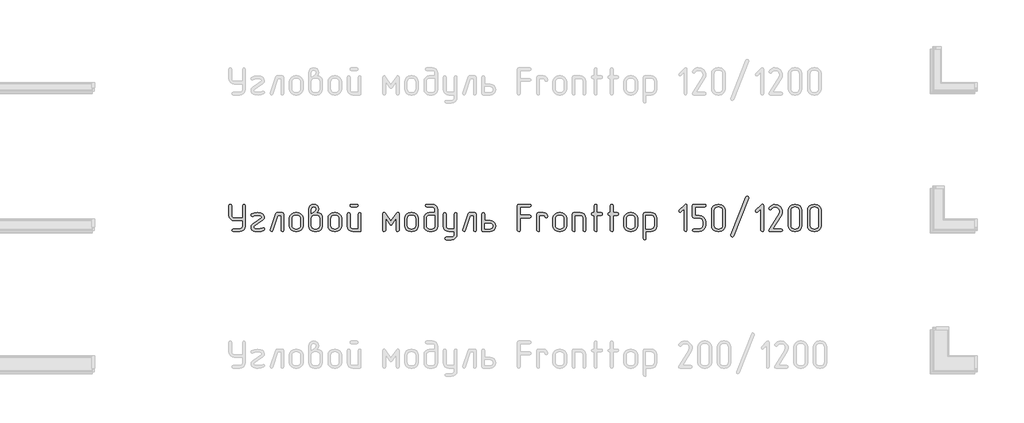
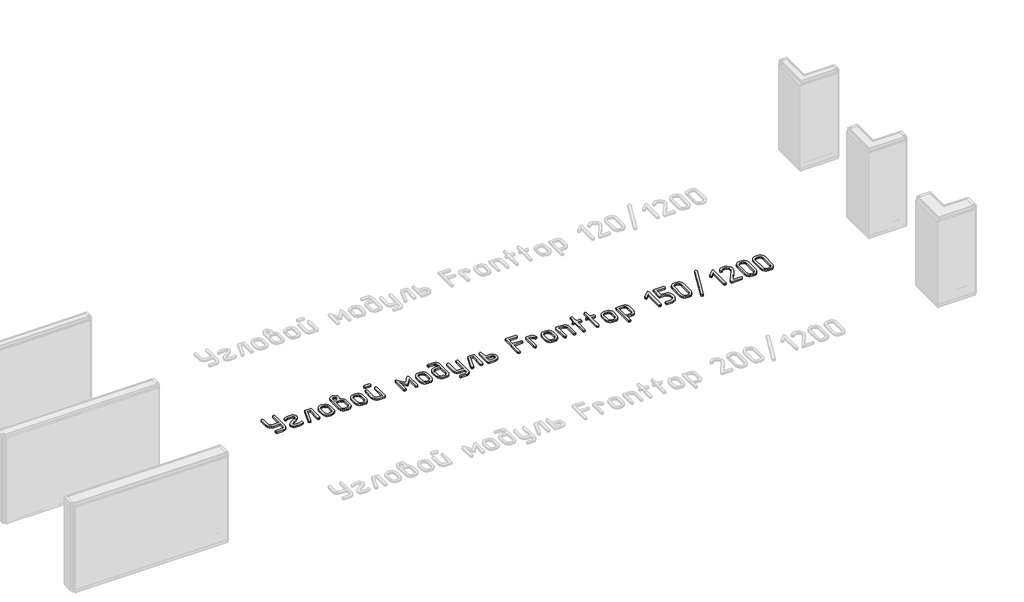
# One storey, part 24 of 37: 1 proxy.
"""IFC4 building model written with IfcOpenShell, lengths in millimetres."""

from ifc_helpers import new_model, si_unit, origin, origin_with_axes, place, context, project, spatial, polyline, outline, extrude, element, save

model = new_model("IFC4")

# Units and contexts
model_context = context("Model", 3, world=origin())
ifc_project = project(units=[si_unit("LENGTHUNIT", "METRE", prefix="MILLI")], contexts=[model_context])

# Site, building, storey
site = spatial("IfcSite", under=ifc_project)
building = spatial("IfcBuilding", under=site)
storey = spatial("IfcBuildingStorey", under=building, Name="Этаж 01", Elevation=0.0)

# Proxy
placement = place(None, origin())
element("IfcBuildingElementProxy", 1, Name="300 мм ГОСТ 2.304", ObjectType="300 мм ГОСТ 2.304", at=placement, inside=storey, context=model_context, shape_type="SweptSolid", body=[
    extrude(outline(polyline([(64282.5947081, -34108.7261154), (64192.9398643, -34108.7261154), (64169.869135, -34104.3522505), (64150.5152523, -34091.2306559), (64137.3936577, -34071.8767732), (64133.0197928, -34048.8060439), (64133.0197928, -33944.2838139), (64137.4124296, -33933.1332743), (64148.3377058, -33928.9659009), (64158.6247356, -33932.9080109), (64163.205092, -33944.2838139), (64163.205092, -34048.8060439), (64165.3357086, -34060.4540402), (64171.7275583, -34070.0183499), (64181.2918679, -34076.4101996), (64192.9398643, -34078.5408162), (64282.5947081, -34078.5408162), (64282.5947081, -33944.2838139), (64286.949801, -33933.1332743), (64297.4620942, -33928.9659009), (64307.9368436, -33932.9080109), (64312.3294804, -33944.2838139), (64312.3294804, -34168.19566), (64307.9556155, -34191.6042844), (64294.8340209, -34211.0707988), (64275.8180333, -34223.8544983), (64252.8599358, -34228.1157314), (64178.0724781, -34228.1157314), (64167.147202, -34223.7606385), (64163.205092, -34213.2483453), (64166.9219385, -34202.736052), (64178.0724781, -34198.3809591), (64252.8599358, -34198.3809591), (64264.2263528, -34196.1940267), (64273.8469783, -34189.6332294), (64280.4077756, -34179.8999722), (64282.5947081, -34168.19566), (64282.5947081, -34108.7261154)])), origin_with_axes(), (0.0, 0.0, 1.0), 20.0),
    extrude(outline(polyline([(64514.9914765, -34214.524838), (64485.4444237, -34225.0746752), (64451.6173658, -34228.5662583), (64430.8180428, -34227.4774851), (64413.0973199, -34224.5866044), (64396.8408093, -34219.4524755), (64384.8643037, -34209.3062353), (64377.4869265, -34195.6496401), (64375.0278008, -34179.984446), (64378.9699108, -34160.7619669), (64391.2467675, -34144.618088), (64486.5331969, -34078.991343), (64491.4139045, -34069.8306304), (64487.5844263, -34060.4071103), (64476.0959915, -34054.0621905), (64442.3815653, -34049.7070976), (64416.2510079, -34052.4290307), (64397.32888, -34060.5948299), (64388.1681673, -34064.1239569), (64377.693418, -34059.5436005), (64373.3007812, -34048.355517), (64379.4579815, -34037.0172579), (64408.0664367, -34024.777945), (64445.0096386, -34020.4228521), (64450.2657853, -34020.4228521), (64479.1370478, -34023.9144352), (64501.85111, -34033.7509382), (64516.7184961, -34049.0313073), (64521.9746427, -34068.9295767), (64517.7134096, -34086.6315276), (64504.9297101, -34102.193476), (64409.5681929, -34168.19566), (64404.3871341, -34179.6090069), (64408.1039806, -34189.8584928), (64417.9029396, -34195.7528858), (64434.3096259, -34197.5174493), (64451.9928049, -34198.3809591), (64478.4612575, -34196.2034127), (64501.0251441, -34187.8686659), (64508.4588371, -34186.1416463), (64519.1588499, -34190.7220026), (64523.3262233, -34201.9100861), (64521.2425366, -34209.1936036), (64514.9914765, -34214.524838)])), origin_with_axes(), (0.0, 0.0, 1.0), 20.0),
    extrude(outline(polyline([(64734.3229662, -34213.2483453), (64730.1555928, -34224.3988849), (64719.45558, -34228.1157314), (64708.9432868, -34224.1736215), (64704.5881939, -34213.2483453), (64704.5881939, -34048.8060439), (64670.0478018, -34048.8060439), (64614.0322964, -34218.0539651), (64608.5884303, -34225.4876581), (64600.5164908, -34228.1157314), (64589.7789341, -34224.1736215), (64585.1985778, -34213.6988721), (64586.0996315, -34208.4427255), (64645.1186493, -34029.133038), (64650.4498837, -34021.5867132), (64659.5355086, -34019.0712716), (64719.45558, -34019.0712716), (64730.6061197, -34022.7881181), (64734.3229662, -34033.9386577), (64734.3229662, -34213.2483453)])), origin_with_axes(), (0.0, 0.0, 1.0), 20.0),
    extrude(outline(polyline([(64945.7702359, -34162.4889865), (64940.9646162, -34187.9812976), (64926.5477569, -34209.3437792), (64905.5231704, -34223.4227434), (64880.143491, -34228.1157314), (64862.1975047, -34228.1157314), (64836.7615094, -34223.4227434), (64815.4177998, -34209.3437792), (64801.0009405, -34187.9812976), (64796.1953207, -34162.4889865), (64796.1953207, -34084.6980165), (64801.0009405, -34059.5436005), (64815.4177998, -34038.2937506), (64837.1744924, -34023.8768913), (64862.1975047, -34019.0712716), (64880.143491, -34019.0712716), (64905.288521, -34023.8862773), (64926.510213, -34038.3312945), (64940.9552302, -34059.5529865), (64945.7702359, -34084.6980165), (64945.7702359, -34162.4889865)]), holes=[polyline([(64916.0354636, -34162.4889865), (64916.0354636, -34084.6980165), (64913.4073903, -34070.9194036), (64905.5231704, -34059.3183371), (64893.9221039, -34051.4341172), (64880.143491, -34048.8060439), (64862.1975047, -34048.8060439), (64848.4282777, -34051.4341172), (64836.8553692, -34059.3183371), (64828.9993072, -34070.9194036), (64826.3806199, -34084.6980165), (64826.3806199, -34162.4889865), (64828.9993072, -34176.2675994), (64836.8553692, -34187.8686659), (64848.4282777, -34195.7528858), (64862.1975047, -34198.3809591), (64880.143491, -34198.3809591), (64893.9221039, -34195.7528858), (64905.5231704, -34187.8686659), (64913.4073903, -34176.2675994), (64916.0354636, -34162.4889865)])]), origin_with_axes(), (0.0, 0.0, 1.0), 20.0),
    extrude(outline(polyline([(65097.2974342, -34019.9723253), (65122.7897453, -34024.2335584), (65142.3501195, -34037.0172579), (65153.5006592, -34055.057104), (65157.2175057, -34078.5408162), (65157.2175057, -34168.19566), (65152.8436408, -34191.6042844), (65139.7220462, -34211.0707988), (65120.5934269, -34223.8544983), (65097.2974342, -34228.1157314), (65067.5626619, -34228.1157314), (65044.4919326, -34223.8544983), (65025.1380499, -34211.0707988), (65012.0164553, -34191.6042844), (65007.6425905, -34168.19566), (65007.6425905, -33983.2543867), (65011.9038236, -33960.3901489), (65024.6875231, -33942.5567943), (65041.4133325, -33932.3636243), (65061.8559884, -33928.9659009), (65081.9607493, -33932.3636243), (65098.573927, -33942.5567943), (65111.0760472, -33960.2775172), (65115.2434206, -33982.8038599), (65111.0760472, -34004.8421318), (65097.2974342, -34019.9723253)]), holes=[polyline([(65127.4827334, -34168.19566), (65127.4827334, -34078.5408162), (65125.295801, -34067.1743991), (65118.7350037, -34057.5537736), (65109.0017464, -34050.9929763), (65097.2974342, -34048.8060439), (65067.5626619, -34048.8060439), (65055.9146656, -34050.9929763), (65046.3503559, -34057.5537736), (65039.9585062, -34067.1743991), (65037.8278896, -34078.5408162), (65037.8278896, -34168.19566), (65039.9585062, -34179.8999722), (65046.3503559, -34189.6332294), (65055.9146656, -34196.1940267), (65067.5626619, -34198.3809591), (65097.2974342, -34198.3809591), (65109.0017464, -34196.1940267), (65118.7350037, -34189.6332294), (65125.295801, -34179.8999722), (65127.4827334, -34168.19566)]), polyline([(65037.8278896, -34029.133038), (65044.8110558, -34025.0032085), (65050.0672025, -34021.248818), (65060.1289688, -34014.0403884), (65067.5626619, -34008.5589783), (65079.8019748, -33997.671246), (65085.5086482, -33983.2543867), (65083.7065408, -33973.1644624), (65078.3002186, -33965.7213834), (65070.4723145, -33961.1316411), (65061.4054616, -33959.601727), (65052.4512404, -33961.1316411), (65044.8110558, -33965.7213834), (65039.5736812, -33973.1644624), (65037.8278896, -33983.2543867), (65037.8278896, -34029.133038)])]), origin_with_axes(), (0.0, 0.0, 1.0), 20.0),
    extrude(outline(polyline([(65368.6647755, -34162.4889865), (65363.8591557, -34187.9812976), (65349.4422964, -34209.3437792), (65328.4177099, -34223.4227434), (65303.0380305, -34228.1157314), (65285.0920442, -34228.1157314), (65259.6560489, -34223.4227434), (65238.3123393, -34209.3437792), (65223.89548, -34187.9812976), (65219.0898602, -34162.4889865), (65219.0898602, -34084.6980165), (65223.89548, -34059.5436005), (65238.3123393, -34038.2937506), (65260.0690319, -34023.8768913), (65285.0920442, -34019.0712716), (65303.0380305, -34019.0712716), (65328.1830605, -34023.8862773), (65349.4047525, -34038.3312945), (65363.8497697, -34059.5529865), (65368.6647755, -34084.6980165), (65368.6647755, -34162.4889865)]), holes=[polyline([(65338.9300032, -34162.4889865), (65338.9300032, -34084.6980165), (65336.3019298, -34070.9194036), (65328.4177099, -34059.3183371), (65316.8166434, -34051.4341172), (65303.0380305, -34048.8060439), (65285.0920442, -34048.8060439), (65271.3228172, -34051.4341172), (65259.7499087, -34059.3183371), (65251.8938467, -34070.9194036), (65249.2751594, -34084.6980165), (65249.2751594, -34162.4889865), (65251.8938467, -34176.2675994), (65259.7499087, -34187.8686659), (65271.3228172, -34195.7528858), (65285.0920442, -34198.3809591), (65303.0380305, -34198.3809591), (65316.8166434, -34195.7528858), (65328.4177099, -34187.8686659), (65336.3019298, -34176.2675994), (65338.9300032, -34162.4889865)])]), origin_with_axes(), (0.0, 0.0, 1.0), 20.0),
    extrude(outline(polyline([(65535.5098868, -33959.1512001), (65475.5898153, -33959.1512001), (65464.6645391, -33954.7961072), (65460.7224291, -33944.2838139), (65464.4392757, -33933.5838012), (65475.5898153, -33928.9659009), (65535.5098868, -33928.9659009), (65546.6604264, -33933.3585378), (65550.3772729, -33944.2838139), (65546.4351629, -33954.5708438), (65535.5098868, -33959.1512001)])), origin_with_axes(), (0.0, 0.0, 1.0), 20.0),
    extrude(outline(polyline([(65580.1120452, -34213.2483453), (65576.3951987, -34224.3988849), (65565.2446591, -34228.1157314), (65490.4572014, -34228.1157314), (65467.3864722, -34223.8544983), (65448.0325894, -34211.0707988), (65434.9109948, -34191.6042844), (65430.53713, -34168.19566), (65430.53713, -34033.9386577), (65434.9297668, -34023.0133815), (65445.855043, -34019.0712716), (65456.1420728, -34022.7881181), (65460.7224291, -34033.9386577), (65460.7224291, -34168.19566), (65462.8530457, -34179.8999722), (65469.2448954, -34189.6332294), (65478.8092051, -34196.1940267), (65490.4572014, -34198.3809591), (65550.3772729, -34198.3809591), (65550.3772729, -34033.9386577), (65554.7323658, -34023.0133815), (65565.2446591, -34019.0712716), (65575.7194084, -34022.7881181), (65580.1120452, -34033.9386577), (65580.1120452, -34213.2483453)])), origin_with_axes(), (0.0, 0.0, 1.0), 20.0),
    extrude(outline(polyline([(65999.1020187, -34213.2483453), (65994.7093818, -34224.1736215), (65984.2346325, -34228.1157314), (65973.4970758, -34224.3988849), (65969.3672464, -34213.2483453), (65969.3672464, -34080.2678358), (65921.6864877, -34147.2461613), (65915.5480594, -34153.1030104), (65909.4471749, -34155.0552934), (65903.121027, -34153.1030104), (65897.207862, -34147.2461613), (65849.9776303, -34080.2678358), (65849.9776303, -34213.2483453), (65845.3972739, -34224.1736215), (65835.1102441, -34228.1157314), (65823.9597045, -34224.3988849), (65819.7923311, -34213.2483453), (65819.7923311, -34033.9386577), (65823.5091776, -34021.0235546), (65832.9326977, -34016.4431983), (65840.666742, -34018.6395167), (65847.349557, -34025.2284719), (65909.4471749, -34112.6306814), (65971.9953197, -34025.2284719), (65978.7532225, -34018.6395167), (65985.9616521, -34016.4431983), (65995.3851721, -34021.0235546), (65999.1020187, -34033.9386577), (65999.1020187, -34213.2483453)])), origin_with_axes(), (0.0, 0.0, 1.0), 20.0),
    extrude(outline(polyline([(66209.6482347, -34162.4889865), (66204.8426149, -34187.9812976), (66190.4257556, -34209.3437792), (66169.4011692, -34223.4227434), (66144.0214898, -34228.1157314), (66126.0755035, -34228.1157314), (66100.6395082, -34223.4227434), (66079.2957985, -34209.3437792), (66064.8789392, -34187.9812976), (66060.0733195, -34162.4889865), (66060.0733195, -34084.6980165), (66064.8789392, -34059.5436005), (66079.2957985, -34038.2937506), (66101.0524911, -34023.8768913), (66126.0755035, -34019.0712716), (66144.0214898, -34019.0712716), (66169.1665198, -34023.8862773), (66190.3882117, -34038.3312945), (66204.833229, -34059.5529865), (66209.6482347, -34084.6980165), (66209.6482347, -34162.4889865)]), holes=[polyline([(66179.9134624, -34162.4889865), (66179.9134624, -34084.6980165), (66177.2853891, -34070.9194036), (66169.4011692, -34059.3183371), (66157.8001027, -34051.4341172), (66144.0214898, -34048.8060439), (66126.0755035, -34048.8060439), (66112.3062765, -34051.4341172), (66100.733368, -34059.3183371), (66092.877306, -34070.9194036), (66090.2586186, -34084.6980165), (66090.2586186, -34162.4889865), (66092.877306, -34176.2675994), (66100.733368, -34187.8686659), (66112.3062765, -34195.7528858), (66126.0755035, -34198.3809591), (66144.0214898, -34198.3809591), (66157.8001027, -34195.7528858), (66169.4011692, -34187.8686659), (66177.2853891, -34176.2675994), (66179.9134624, -34162.4889865)])]), origin_with_axes(), (0.0, 0.0, 1.0), 20.0),
    extrude(outline(polyline([(66391.3607322, -34019.0712716), (66391.3607322, -33988.8859724), (66389.1737997, -33977.2379761), (66382.6130024, -33967.6736664), (66372.8797452, -33961.2818167), (66361.175433, -33959.1512001), (66301.7058884, -33959.1512001), (66290.7806122, -33954.7961072), (66286.8385022, -33944.2838139), (66290.5553488, -33933.5838012), (66301.7058884, -33928.9659009), (66361.175433, -33928.9659009), (66384.4714257, -33933.3397658), (66403.600045, -33946.4613604), (66416.7216396, -33965.8152431), (66421.0955045, -33988.8859724), (66421.0955045, -34168.19566), (66416.7216396, -34191.6042844), (66403.600045, -34211.0707988), (66384.4714257, -34223.8544983), (66361.175433, -34228.1157314), (66331.4406607, -34228.1157314), (66308.3699314, -34223.8544983), (66289.0160487, -34211.0707988), (66275.8944541, -34191.6042844), (66271.5205892, -34168.19566), (66271.5205892, -34078.5408162), (66275.8944541, -34055.8079821), (66289.0160487, -34036.566731), (66308.3699314, -34023.4451364), (66331.4406607, -34019.0712716), (66391.3607322, -34019.0712716)]), holes=[polyline([(66391.3607322, -34048.8060439), (66331.4406607, -34048.8060439), (66319.7926643, -34050.9929763), (66310.2283547, -34057.5537736), (66303.836505, -34067.1743991), (66301.7058884, -34078.5408162), (66301.7058884, -34168.19566), (66303.836505, -34179.8999722), (66310.2283547, -34189.6332294), (66319.7926643, -34196.1940267), (66331.4406607, -34198.3809591), (66361.175433, -34198.3809591), (66372.8797452, -34196.1940267), (66382.6130024, -34189.6332294), (66389.1737997, -34179.8999722), (66391.3607322, -34168.19566), (66391.3607322, -34048.8060439)])]), origin_with_axes(), (0.0, 0.0, 1.0), 20.0),
    extrude(outline(polyline([(66602.8080019, -34228.1157314), (66542.8879304, -34228.1157314), (66519.8172012, -34223.8544983), (66500.4633184, -34211.0707988), (66487.3417238, -34191.6042844), (66482.967859, -34168.19566), (66482.967859, -34033.9386577), (66487.3604958, -34023.0133815), (66498.285772, -34019.0712716), (66508.5728018, -34022.7881181), (66513.1531581, -34033.9386577), (66513.1531581, -34168.19566), (66515.2837747, -34179.8999722), (66521.6756244, -34189.6332294), (66531.2399341, -34196.1940267), (66542.8879304, -34198.3809591), (66602.8080019, -34198.3809591), (66602.8080019, -34033.9386577), (66607.1630948, -34023.0133815), (66617.6753881, -34019.0712716), (66628.1501374, -34022.7881181), (66632.5427742, -34033.9386577), (66632.5427742, -34257.8505038), (66628.2815411, -34281.1464965), (66615.4978416, -34300.2751158), (66596.0313272, -34313.3967104), (66572.6227028, -34317.7705752), (66513.1531581, -34317.7705752), (66502.2278819, -34313.3779384), (66498.285772, -34302.9031891), (66502.0026185, -34292.3908958), (66513.1531581, -34288.0358029), (66572.6227028, -34288.0358029), (66584.327015, -34285.8488705), (66594.0602722, -34279.2880732), (66600.6210695, -34269.554816), (66602.8080019, -34257.8505038), (66602.8080019, -34228.1157314)])), origin_with_axes(), (0.0, 0.0, 1.0), 20.0),
    extrude(outline(polyline([(66843.990044, -34213.2483453), (66839.8226706, -34224.3988849), (66829.1226578, -34228.1157314), (66818.6103646, -34224.1736215), (66814.2552717, -34213.2483453), (66814.2552717, -34048.8060439), (66779.7148796, -34048.8060439), (66723.6993742, -34218.0539651), (66718.255508, -34225.4876581), (66710.1835686, -34228.1157314), (66699.4460119, -34224.1736215), (66694.8656556, -34213.6988721), (66695.7667093, -34208.4427255), (66754.7857271, -34029.133038), (66760.1169615, -34021.5867132), (66769.2025864, -34019.0712716), (66829.1226578, -34019.0712716), (66840.2731974, -34022.7881181), (66843.990044, -34033.9386577), (66843.990044, -34213.2483453)])), origin_with_axes(), (0.0, 0.0, 1.0), 20.0),
    extrude(outline(polyline([(66936.0476976, -34108.7261154), (66995.5172423, -34108.7261154), (67021.0095534, -34113.3252436), (67040.5699276, -34127.1226285), (67051.7204672, -34145.4628258), (67055.4373137, -34168.19566), (67051.8330989, -34190.9472661), (67041.0204544, -34209.3437792), (67021.1221851, -34223.4227434), (66995.5172423, -34228.1157314), (66921.1803115, -34228.1157314), (66909.6918767, -34224.3988849), (66905.8623985, -34213.2483453), (66905.8623985, -34033.9386577), (66910.2550353, -34023.0133815), (66921.1803115, -34019.0712716), (66931.4673413, -34022.7881181), (66936.0476976, -34033.9386577), (66936.0476976, -34108.7261154)]), holes=[polyline([(66936.0476976, -34138.4608877), (66936.0476976, -34198.3809591), (66995.5172423, -34198.3809591), (67008.3009417, -34196.1377108), (67017.8183215, -34189.407966), (67023.7314864, -34179.6183929), (67025.7025414, -34168.19566), (67023.8441182, -34157.1577521), (67018.2688483, -34147.6216003), (67008.6388369, -34140.7510658), (66995.5172423, -34138.4608877), (66936.0476976, -34138.4608877)])]), origin_with_axes(), (0.0, 0.0, 1.0), 20.0),
    extrude(outline(polyline([(67325.3028988, -34048.355517), (67429.8251287, -34048.355517), (67440.9756683, -34052.5228904), (67444.6925149, -34063.2229032), (67440.7504049, -34073.9604598), (67429.8251287, -34078.5408162), (67325.3028988, -34078.5408162), (67325.3028988, -34213.2483453), (67321.1355254, -34224.3988849), (67310.4355126, -34228.1157314), (67299.697956, -34224.1736215), (67295.1175996, -34213.2483453), (67295.1175996, -33944.2838139), (67298.9470779, -33932.7953792), (67310.4355126, -33928.9659009), (67429.8251287, -33928.9659009), (67440.9756683, -33933.3585378), (67444.6925149, -33944.2838139), (67440.7504049, -33954.5708438), (67429.8251287, -33959.1512001), (67325.3028988, -33959.1512001), (67325.3028988, -34048.355517)])), origin_with_axes(), (0.0, 0.0, 1.0), 20.0),
    extrude(outline(polyline([(67626.4050123, -34063.67343), (67622.2376389, -34074.8239697), (67611.5376262, -34078.5408162), (67600.8000695, -34074.5987062), (67596.2197132, -34063.67343), (67592.0523398, -34053.1986807), (67581.352327, -34048.8060439), (67536.7501685, -34048.8060439), (67536.7501685, -34213.2483453), (67532.5827951, -34224.3988849), (67521.8827824, -34228.1157314), (67511.1452257, -34224.1736215), (67506.5648694, -34213.2483453), (67506.5648694, -34033.9386577), (67510.3943476, -34022.7881181), (67521.8827824, -34019.0712716), (67581.352327, -34019.0712716), (67598.8477865, -34022.5628547), (67613.3021897, -34032.1740942), (67622.9134292, -34046.403234), (67626.4050123, -34063.67343)])), origin_with_axes(), (0.0, 0.0, 1.0), 20.0),
    extrude(outline(polyline([(67833.947716, -34162.4889865), (67829.1420963, -34187.9812976), (67814.7252369, -34209.3437792), (67793.7006505, -34223.4227434), (67768.3209711, -34228.1157314), (67750.3749848, -34228.1157314), (67724.9389895, -34223.4227434), (67703.5952798, -34209.3437792), (67689.1784205, -34187.9812976), (67684.3728008, -34162.4889865), (67684.3728008, -34084.6980165), (67689.1784205, -34059.5436005), (67703.5952798, -34038.2937506), (67725.3519725, -34023.8768913), (67750.3749848, -34019.0712716), (67768.3209711, -34019.0712716), (67793.4660011, -34023.8862773), (67814.687693, -34038.3312945), (67829.1327103, -34059.5529865), (67833.947716, -34084.6980165), (67833.947716, -34162.4889865)]), holes=[polyline([(67804.2129437, -34162.4889865), (67804.2129437, -34084.6980165), (67801.5848704, -34070.9194036), (67793.7006505, -34059.3183371), (67782.099584, -34051.4341172), (67768.3209711, -34048.8060439), (67750.3749848, -34048.8060439), (67736.6057578, -34051.4341172), (67725.0328493, -34059.3183371), (67717.1767873, -34070.9194036), (67714.5580999, -34084.6980165), (67714.5580999, -34162.4889865), (67717.1767873, -34176.2675994), (67725.0328493, -34187.8686659), (67736.6057578, -34195.7528858), (67750.3749848, -34198.3809591), (67768.3209711, -34198.3809591), (67782.099584, -34195.7528858), (67793.7006505, -34187.8686659), (67801.5848704, -34176.2675994), (67804.2129437, -34162.4889865)])]), origin_with_axes(), (0.0, 0.0, 1.0), 20.0),
    extrude(outline(polyline([(68045.3949858, -34213.2483453), (68041.2276124, -34224.3988849), (68030.5275996, -34228.1157314), (68020.0153064, -34224.1736215), (68015.6602135, -34213.2483453), (68015.6602135, -34078.5408162), (68013.473281, -34067.1743991), (68006.9124837, -34057.5537736), (67997.1792265, -34050.9929763), (67985.4749143, -34048.8060439), (67926.0053697, -34048.8060439), (67926.0053697, -34213.2483453), (67921.8379963, -34224.3988849), (67911.1379835, -34228.1157314), (67900.4004269, -34224.1736215), (67895.8200705, -34213.2483453), (67895.8200705, -34033.9386577), (67899.6495488, -34022.7881181), (67911.1379835, -34019.0712716), (67985.4749143, -34019.0712716), (68008.770907, -34023.3325047), (68027.8995263, -34036.1162042), (68041.0211209, -34055.4700869), (68045.3949858, -34078.5408162), (68045.3949858, -34213.2483453)])), origin_with_axes(), (0.0, 0.0, 1.0), 20.0),
    extrude(outline(polyline([(68167.1874117, -34019.0712716), (68212.2400971, -34019.0712716), (68223.3906367, -34023.238645), (68227.1074832, -34033.9386577), (68223.1653733, -34044.2256875), (68212.2400971, -34048.8060439), (68167.1874117, -34048.8060439), (68167.1874117, -34213.2483453), (68163.0200384, -34224.3988849), (68152.3200256, -34228.1157314), (68141.8077324, -34224.1736215), (68137.4526394, -34213.2483453), (68137.4526394, -34048.8060439), (68122.5852533, -34048.8060439), (68111.4347137, -34044.450951), (68107.2673403, -34033.9386577), (68111.2094502, -34023.4639084), (68122.5852533, -34019.0712716), (68137.4526394, -34019.0712716), (68137.4526394, -33944.2838139), (68141.8077324, -33933.1332743), (68152.3200256, -33928.9659009), (68162.7947749, -33932.9080109), (68167.1874117, -33944.2838139), (68167.1874117, -34019.0712716)])), origin_with_axes(), (0.0, 0.0, 1.0), 20.0),
    extrude(outline(polyline([(68344.9953431, -34019.0712716), (68390.0480284, -34019.0712716), (68401.1985681, -34023.238645), (68404.9154146, -34033.9386577), (68400.9733046, -34044.2256875), (68390.0480284, -34048.8060439), (68344.9953431, -34048.8060439), (68344.9953431, -34213.2483453), (68340.8279697, -34224.3988849), (68330.127957, -34228.1157314), (68319.6156637, -34224.1736215), (68315.2605708, -34213.2483453), (68315.2605708, -34048.8060439), (68300.3931847, -34048.8060439), (68289.2426451, -34044.450951), (68285.0752717, -34033.9386577), (68289.0173816, -34023.4639084), (68300.3931847, -34019.0712716), (68315.2605708, -34019.0712716), (68315.2605708, -33944.2838139), (68319.6156637, -33933.1332743), (68330.127957, -33928.9659009), (68340.6027063, -33932.9080109), (68344.9953431, -33944.2838139), (68344.9953431, -34019.0712716)])), origin_with_axes(), (0.0, 0.0, 1.0), 20.0),
    extrude(outline(polyline([(68612.4581183, -34162.4889865), (68607.6524985, -34187.9812976), (68593.2356392, -34209.3437792), (68572.2110527, -34223.4227434), (68546.8313734, -34228.1157314), (68528.885387, -34228.1157314), (68503.4493918, -34223.4227434), (68482.1056821, -34209.3437792), (68467.6888228, -34187.9812976), (68462.883203, -34162.4889865), (68462.883203, -34084.6980165), (68467.6888228, -34059.5436005), (68482.1056821, -34038.2937506), (68503.8623747, -34023.8768913), (68528.885387, -34019.0712716), (68546.8313734, -34019.0712716), (68571.9764033, -34023.8862773), (68593.1980953, -34038.3312945), (68607.6431126, -34059.5529865), (68612.4581183, -34084.6980165), (68612.4581183, -34162.4889865)]), holes=[polyline([(68582.723346, -34162.4889865), (68582.723346, -34084.6980165), (68580.0952727, -34070.9194036), (68572.2110527, -34059.3183371), (68560.6099863, -34051.4341172), (68546.8313734, -34048.8060439), (68528.885387, -34048.8060439), (68515.1161601, -34051.4341172), (68503.5432515, -34059.3183371), (68495.6871895, -34070.9194036), (68493.0685022, -34084.6980165), (68493.0685022, -34162.4889865), (68495.6871895, -34176.2675994), (68503.5432515, -34187.8686659), (68515.1161601, -34195.7528858), (68528.885387, -34198.3809591), (68546.8313734, -34198.3809591), (68560.6099863, -34195.7528858), (68572.2110527, -34187.8686659), (68580.0952727, -34176.2675994), (68582.723346, -34162.4889865)])]), origin_with_axes(), (0.0, 0.0, 1.0), 20.0),
    extrude(outline(polyline([(68704.515772, -34228.1157314), (68704.515772, -34302.9031891), (68700.3483986, -34314.0537287), (68689.6483858, -34317.7705752), (68678.9108291, -34313.8284653), (68674.3304728, -34302.9031891), (68674.3304728, -34033.9386577), (68678.1599511, -34022.7881181), (68689.6483858, -34019.0712716), (68763.9853166, -34019.0712716), (68787.2813093, -34023.3325047), (68806.4099286, -34036.1162042), (68819.5315232, -34055.4700869), (68823.9053881, -34078.5408162), (68823.9053881, -34168.19566), (68819.5315232, -34191.6042844), (68806.4099286, -34211.0707988), (68787.2813093, -34223.8544983), (68763.9853166, -34228.1157314), (68704.515772, -34228.1157314)]), holes=[polyline([(68704.515772, -34198.3809591), (68763.9853166, -34198.3809591), (68775.6896288, -34196.1940267), (68785.422886, -34189.6332294), (68791.9836833, -34179.8999722), (68794.1706157, -34168.19566), (68794.1706157, -34078.5408162), (68791.9836833, -34067.1743991), (68785.422886, -34057.5537736), (68775.6896288, -34050.9929763), (68763.9853166, -34048.8060439), (68704.515772, -34048.8060439), (68704.515772, -34198.3809591)])]), origin_with_axes(), (0.0, 0.0, 1.0), 20.0),
    extrude(outline(polyline([(69153.2405177, -34213.2483453), (69149.0731443, -34224.3988849), (69138.3731316, -34228.1157314), (69128.0861018, -34224.1736215), (69123.5057454, -34213.2483453), (69123.5057454, -33980.1757866), (69088.9653533, -34014.2656518), (69078.9035869, -34019.0712716), (69068.1660303, -34014.4909152), (69063.5856739, -34003.7533586), (69068.3912937, -33993.3161531), (69127.8608383, -33933.7715207), (69141.0012049, -33927.2388813), (69149.7489346, -33931.6315182), (69153.2405177, -33944.2838139), (69153.2405177, -34213.2483453)])), origin_with_axes(), (0.0, 0.0, 1.0), 20.0),
    extrude(outline(polyline([(69242.7451859, -33959.1512001), (69242.7451859, -34048.8060439), (69287.3473444, -34048.8060439), (69316.0778172, -34054.278068), (69340.2467057, -34070.6941402), (69356.6627779, -34094.8630286), (69362.134802, -34123.5935015), (69362.134802, -34153.3282738), (69356.6627779, -34182.1056766), (69340.2467057, -34206.2651791), (69316.0778172, -34222.6530933), (69287.3473444, -34228.1157314), (69227.8777997, -34228.1157314), (69216.7272601, -34223.7606385), (69212.5598867, -34213.2483453), (69216.5019967, -34202.736052), (69227.8777997, -34198.3809591), (69287.3473444, -34198.3809591), (69304.8428038, -34194.889376), (69319.297207, -34185.0528731), (69328.9084466, -34170.5984699), (69332.4000297, -34153.3282738), (69332.4000297, -34123.5935015), (69328.9084466, -34106.098042), (69319.297207, -34091.6436388), (69304.8428038, -34082.0323993), (69287.3473444, -34078.5408162), (69227.8777997, -34078.5408162), (69216.389365, -34074.8239697), (69212.5598867, -34063.67343), (69212.5598867, -33944.2838139), (69216.389365, -33932.7953792), (69227.8777997, -33928.9659009), (69347.2674158, -33928.9659009), (69358.4179554, -33933.3585378), (69362.134802, -33944.2838139), (69358.192692, -33954.5708438), (69347.2674158, -33959.1512001), (69242.7451859, -33959.1512001)])), origin_with_axes(), (0.0, 0.0, 1.0), 20.0),
    extrude(outline(polyline([(69573.5820717, -34162.4889865), (69568.776452, -34187.9812976), (69554.3595927, -34209.3437792), (69533.3350062, -34223.4227434), (69507.9553268, -34228.1157314), (69490.0093405, -34228.1157314), (69464.5733452, -34223.4227434), (69443.2296355, -34209.3437792), (69428.8127762, -34187.9812976), (69424.0071565, -34162.4889865), (69424.0071565, -33995.0431727), (69428.8127762, -33969.8887568), (69443.2296355, -33948.6389069), (69464.7610647, -33933.8841524), (69490.0093405, -33928.9659009), (69507.9553268, -33928.9659009), (69533.1003568, -33933.7809067), (69554.3220488, -33948.2259239), (69568.767066, -33969.5602476), (69573.5820717, -33995.0431727), (69573.5820717, -34162.4889865)]), holes=[polyline([(69543.8472994, -34162.4889865), (69543.8472994, -33995.0431727), (69541.2192261, -33981.2645598), (69533.3350062, -33969.6634933), (69521.7339397, -33961.7792734), (69507.9553268, -33959.1512001), (69490.0093405, -33959.1512001), (69476.2401135, -33961.7792734), (69464.667205, -33969.6634933), (69456.811143, -33981.2645598), (69454.1924556, -33995.0431727), (69454.1924556, -34162.4889865), (69456.811143, -34176.2675994), (69464.667205, -34187.8686659), (69476.2401135, -34195.7528858), (69490.0093405, -34198.3809591), (69507.9553268, -34198.3809591), (69521.7339397, -34195.7528858), (69533.3350062, -34187.8686659), (69541.2192261, -34176.2675994), (69543.8472994, -34162.4889865)])]), origin_with_axes(), (0.0, 0.0, 1.0), 20.0),
    extrude(outline(polyline([(69829.1809731, -33859.8851168), (69664.7386717, -34278.4245634), (69659.0695421, -34285.4077296), (69651.2228661, -34288.0358029), (69640.260046, -34283.8684295), (69635.4544262, -34273.1684168), (69636.3554799, -34267.4617433), (69800.7977813, -33848.9973845), (69806.4669109, -33841.9391305), (69814.3135869, -33839.3110572), (69825.276407, -33843.703694), (69830.0820268, -33854.1784433), (69829.1809731, -33859.8851168)])), origin_with_axes(), (0.0, 0.0, 1.0), 20.0),
    extrude(outline(polyline([(69994.223977, -34213.2483453), (69990.0566036, -34224.3988849), (69979.3565908, -34228.1157314), (69969.069561, -34224.1736215), (69964.4892047, -34213.2483453), (69964.4892047, -33980.1757866), (69929.9488126, -34014.2656518), (69919.8870462, -34019.0712716), (69909.1494895, -34014.4909152), (69904.5691332, -34003.7533586), (69909.374753, -33993.3161531), (69968.8442976, -33933.7715207), (69981.9846641, -33927.2388813), (69990.7323939, -33931.6315182), (69994.223977, -33944.2838139), (69994.223977, -34213.2483453)])), origin_with_axes(), (0.0, 0.0, 1.0), 20.0),
    extrude(outline(polyline([(70192.1554411, -34044.450951), (70095.5174311, -34198.3809591), (70188.2508751, -34198.3809591), (70199.4014147, -34202.5483325), (70203.1182612, -34213.2483453), (70199.1761513, -34223.5353751), (70188.2508751, -34228.1157314), (70068.861259, -34228.1157314), (70056.697034, -34225.1685349), (70052.6422923, -34216.3269455), (70056.1714193, -34204.9135985), (70166.4003227, -34029.133038), (70172.0319084, -34006.8319587), (70168.3150618, -33988.3603577), (70157.1645222, -33973.1926204), (70140.3260811, -33962.6615552), (70120.4465837, -33959.1512001), (70108.7516574, -33960.6811142), (70098.1455044, -33965.2708565), (70081.1005718, -33981.9028062), (70076.0884606, -33987.1401809), (70068.861259, -33988.8859724), (70058.3489657, -33984.7561429), (70053.543346, -33974.4691131), (70056.1714193, -33966.1343663), (70068.2042407, -33951.1168046), (70083.2781183, -33939.2529308), (70100.3230509, -33931.5376584), (70118.2690372, -33928.9659009), (70150.2939877, -33934.8790659), (70177.288055, -33952.6185607), (70195.6470243, -33977.9982401), (70200.2367666, -33992.3212397), (70201.7666807, -34007.7330124), (70199.3638708, -34026.5237366), (70192.1554411, -34044.450951)])), origin_with_axes(), (0.0, 0.0, 1.0), 20.0),
    extrude(outline(polyline([(70414.565531, -34162.4889865), (70409.7599112, -34187.9812976), (70395.3430519, -34209.3437792), (70374.3184654, -34223.4227434), (70348.938786, -34228.1157314), (70330.9927997, -34228.1157314), (70305.5568045, -34223.4227434), (70284.2130948, -34209.3437792), (70269.7962355, -34187.9812976), (70264.9906157, -34162.4889865), (70264.9906157, -33995.0431727), (70269.7962355, -33969.8887568), (70284.2130948, -33948.6389069), (70305.744524, -33933.8841524), (70330.9927997, -33928.9659009), (70348.938786, -33928.9659009), (70374.083816, -33933.7809067), (70395.305508, -33948.2259239), (70409.7505252, -33969.5602476), (70414.565531, -33995.0431727), (70414.565531, -34162.4889865)]), holes=[polyline([(70384.8307587, -34162.4889865), (70384.8307587, -33995.0431727), (70382.2026854, -33981.2645598), (70374.3184654, -33969.6634933), (70362.717399, -33961.7792734), (70348.938786, -33959.1512001), (70330.9927997, -33959.1512001), (70317.2235728, -33961.7792734), (70305.6506642, -33969.6634933), (70297.7946022, -33981.2645598), (70295.1759149, -33995.0431727), (70295.1759149, -34162.4889865), (70297.7946022, -34176.2675994), (70305.6506642, -34187.8686659), (70317.2235728, -34195.7528858), (70330.9927997, -34198.3809591), (70348.938786, -34198.3809591), (70362.717399, -34195.7528858), (70374.3184654, -34187.8686659), (70382.2026854, -34176.2675994), (70384.8307587, -34162.4889865)])]), origin_with_axes(), (0.0, 0.0, 1.0), 20.0),
    extrude(outline(polyline([(70626.0128007, -34162.4889865), (70621.207181, -34187.9812976), (70606.7903217, -34209.3437792), (70585.7657352, -34223.4227434), (70560.3860558, -34228.1157314), (70542.4400695, -34228.1157314), (70517.0040742, -34223.4227434), (70495.6603646, -34209.3437792), (70481.2435053, -34187.9812976), (70476.4378855, -34162.4889865), (70476.4378855, -33995.0431727), (70481.2435053, -33969.8887568), (70495.6603646, -33948.6389069), (70517.1917937, -33933.8841524), (70542.4400695, -33928.9659009), (70560.3860558, -33928.9659009), (70585.5310858, -33933.7809067), (70606.7527778, -33948.2259239), (70621.197795, -33969.5602476), (70626.0128007, -33995.0431727), (70626.0128007, -34162.4889865)]), holes=[polyline([(70596.2780284, -34162.4889865), (70596.2780284, -33995.0431727), (70593.6499551, -33981.2645598), (70585.7657352, -33969.6634933), (70574.1646687, -33961.7792734), (70560.3860558, -33959.1512001), (70542.4400695, -33959.1512001), (70528.6708425, -33961.7792734), (70517.097934, -33969.6634933), (70509.241872, -33981.2645598), (70506.6231847, -33995.0431727), (70506.6231847, -34162.4889865), (70509.241872, -34176.2675994), (70517.097934, -34187.8686659), (70528.6708425, -34195.7528858), (70542.4400695, -34198.3809591), (70560.3860558, -34198.3809591), (70574.1646687, -34195.7528858), (70585.7657352, -34187.8686659), (70593.6499551, -34176.2675994), (70596.2780284, -34162.4889865)])]), origin_with_axes(), (0.0, 0.0, 1.0), 20.0),
])

save(model, "model.ifc")
